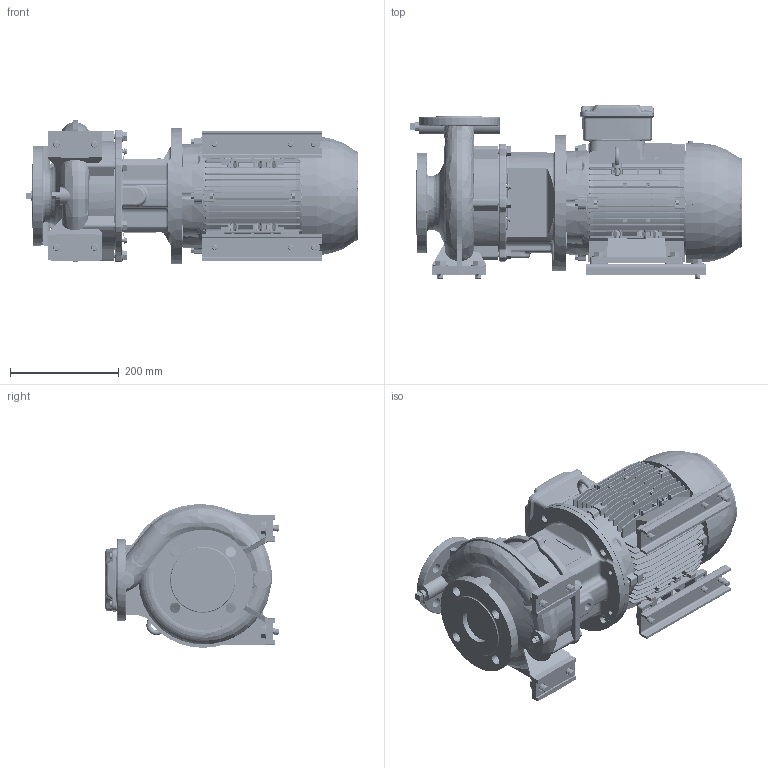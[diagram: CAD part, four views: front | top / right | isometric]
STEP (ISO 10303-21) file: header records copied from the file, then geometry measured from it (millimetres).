
FILE_DESCRIPTION (( 'STEP AP214' ), '1' );
FILE_NAME ('GSD2 40-160_4.0_(112M)_W21.STEP', '2026-07-02T05:21:56', ( '' ), ( '' ), 'SwSTEP 2.0', 'SolidWorks 2024', '' );
FILE_SCHEMA (( 'AUTOMOTIVE_DESIGN' ));
Length unit declared in the file: millimetre
Products named in the file (8): GSD2  40-160_4.0_(112M)_W21; 40-160-112M; Parametric Flat Washer_M10; Parametric bolt_SFT-A297B; 112M ALIE3_W21T_B35; Parametric Flat Washer_M12; Parametric bolt_SFT-A253B; 140 x 20 - 271472024
Assembly tree (24 placements, depth 2):
  GSD2  40-160_4.0_(112M)_W21
    40-160-112M
    112M ALIE3_W21T_B35
    140 x 20 - 271472024  x2
    Parametric bolt_SFT-A253B  x6
    Parametric bolt_SFT-A297B  x4
    Parametric Flat Washer_M12  x4
    Parametric Flat Washer_M10  x6
Bounding box: 610.75 x 320 x 264.41 mm (x, y, z)
Volume: 18214077.4 mm3; surface area: 1428689.7 mm2
Topology: 41 solids, 43 shells, 5109 faces, 13709 edges, 8965 vertices
Faces by surface type: plane 2658, cylinder 1197, bspline 491, torus 387, cone 365, sphere 11
Entity records: 203281 total; most frequent: CARTESIAN_POINT 91959, ORIENTED_EDGE 25004, DIRECTION 20223, EDGE_CURVE 12502, VERTEX_POINT 8185, LINE 7015, VECTOR 7015, AXIS2_PLACEMENT_3D 6604
